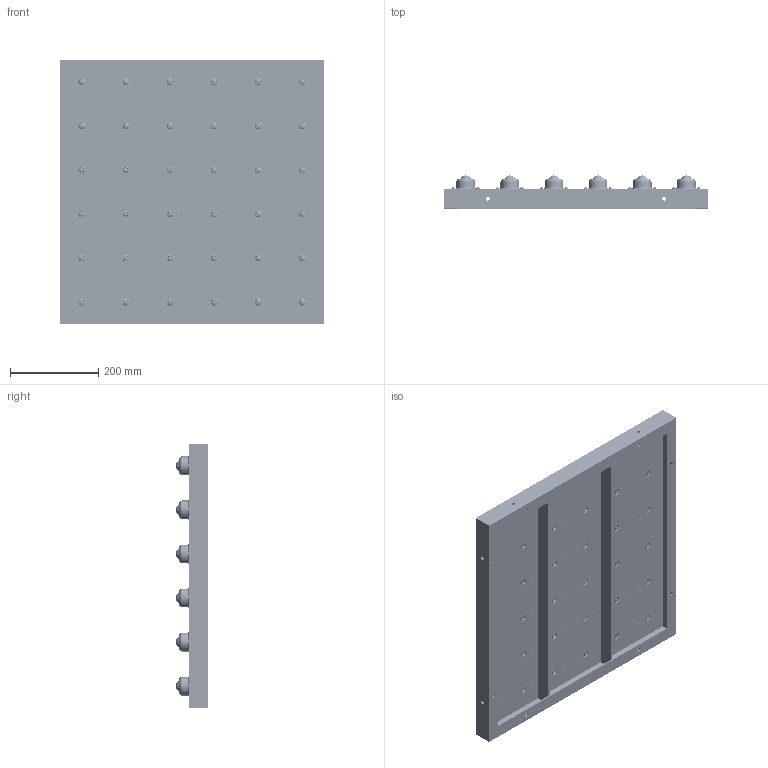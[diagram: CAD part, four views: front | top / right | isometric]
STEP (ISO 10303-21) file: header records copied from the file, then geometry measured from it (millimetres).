
FILE_DESCRIPTION (( 'STEP AP203' ), '1' );
FILE_NAME ('PVT-6-50H.STEP', '2016-01-26T04:22:08', ( '' ), ( '' ), 'SwSTEP 2.0', 'SolidWorks 2013', '' );
FILE_SCHEMA (( 'CONFIG_CONTROL_DESIGN' ));
Length unit declared in the file: millimetre
Products named in the file (4): cross recessed pan head screw_jis_JIS B 1111 Cross recessed pan head screw - M4 x 6 - Z --6C; PVT-6-50H; PVT-6-50H part; PV50H
Assembly tree (109 placements, depth 2):
  PVT-6-50H
    PVT-6-50H part
    PV50H  x36
    cross recessed pan head screw_jis_JIS B 1111 Cross recessed pan head screw - M4 x 6 - Z --6C  x72
Bounding box: 600 x 74 x 600 mm (x, y, z)
Volume: 2844137.3 mm3; surface area: 1464617.7 mm2
Topology: 109 solids, 109 shells, 4988 faces, 12072 edges, 7556 vertices
Faces by surface type: plane 1896, cylinder 1724, torus 576, cone 432, sphere 360
Entity records: 16697 total; most frequent: DIRECTION 2597, CARTESIAN_POINT 2430, ORIENTED_EDGE 2062, AXIS2_PLACEMENT_3D 1109, EDGE_CURVE 1031, VERTEX_POINT 680, EDGE_LOOP 633, CIRCLE 628
